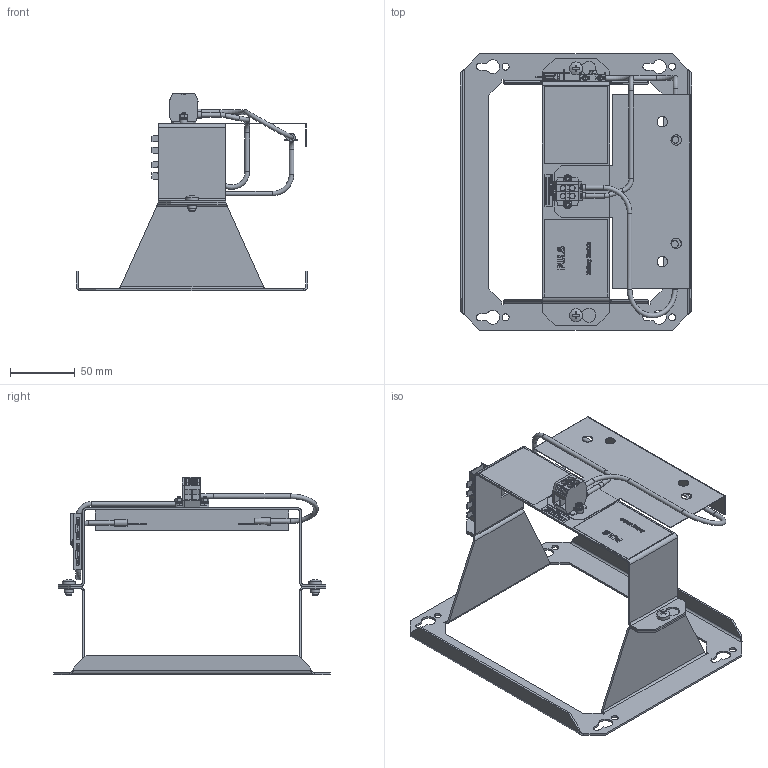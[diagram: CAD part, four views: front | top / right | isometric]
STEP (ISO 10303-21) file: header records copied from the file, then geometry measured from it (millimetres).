
FILE_DESCRIPTION(/* description */ (''),/* implementation_level */ '2;1');
FILE_NAME(/* name */ 'L:\MKT-GER\Neue Webdokumente\Daten von KO\Internet\UZO12.26 (AZ-359.03)\md3_uzo12_26.stp',/* time_stamp */ '2019-02-26T10:42:35+01:00',/* author */ ('rahns'),/* organization */ (''),/* preprocessor_version */ 'ST-DEVELOPER v17',/* originating_system */ 'Autodesk Inventor 2018',/* authorisation */ '3840739,9 mm^3');
FILE_SCHEMA (('AUTOMOTIVE_DESIGN { 1 0 10303 214 3 1 1 }'));
Length unit declared in the file: millimetre
Products named in the file (24): 359.05; WALL MOUNT 359; SCREW M5x8; BATTERY BRACKET 359; INSULATION FOIL 359.02; TERMINAL 359.00; ED-B30_127-10; FRONTFOIL 359.02; LABEL1 359.02; LABEL2 359.02; WIRE BLACK 359.02_2; XS-RINGKASCH2-10; WI-359.780.02_Wire_mont_Yuasa-Batterie; WIRE RED 359.02_2; FH-FKH-10; FH-FKH_CONT-10; WI-359.772.00_Wire_red_mont_Yuasa-Batterie; XS-RINGKASCH3-10; XS-ADERHU25GR-30; ISO 7046-1 - M3 x 10 - 4.8 - H; ED-M30_934-10; MKT_WASHER 3; MKT_FUSE; MKT_FUSEHOLDER2
Assembly tree (34 placements, depth 3):
  359.05
    WALL MOUNT 359
    SCREW M5x8  x2
    BATTERY BRACKET 359
    INSULATION FOIL 359.02
    TERMINAL 359.00
    ISO 7046-1 - M3 x 10 - 4.8 - H  x3
    ED-M30_934-10  x3
    ED-B30_127-10  x2
    MKT_WASHER 3  x3
    FRONTFOIL 359.02
    LABEL1 359.02
    LABEL2 359.02
    WIRE BLACK 359.02_2
      XS-RINGKASCH2-10
      WI-359.780.02_Wire_mont_Yuasa-Batterie
      XS-ADERHU25GR-30
    WIRE RED 359.02_2
      FH-FKH-10
      FH-FKH_CONT-10  x2
      WI-359.772.00_Wire_red_mont_Yuasa-Batterie
      XS-RINGKASCH3-10
      XS-ADERHU25GR-30
    MKT_FUSE  x2
    MKT_FUSEHOLDER2
Bounding box: 179 x 214 x 152.5 mm (x, y, z)
Volume: 96157.6 mm3; surface area: 161714.7 mm2
Topology: 34 solids, 36 shells, 2012 faces, 5393 edges, 3567 vertices
Faces by surface type: plane 1325, bspline 327, cylinder 274, cone 61, torus 23, sphere 2
Full cylindrical faces by diameter (mm): 2 x6, 2.2 x2, 2.459 x3, 2.6 x2, 2.693 x3, 3 x6, 3.2 x3, 3.4 x1, 3.6 x12, 4 x4, 4.1 x4, 4.2 x2, 4.3 x4, 4.5 x1, 4.8 x3, 5 x4, 5.3 x1, 5.4 x5, 5.5 x3, 6 x3, 7 x2, 8 x4, 10 x2
Entity records: 56029 total; most frequent: CARTESIAN_POINT 13713, ORIENTED_EDGE 9164, DIRECTION 7324, EDGE_CURVE 4582, LINE 3346, VECTOR 3346, VERTEX_POINT 3035, AXIS2_PLACEMENT_3D 1989
